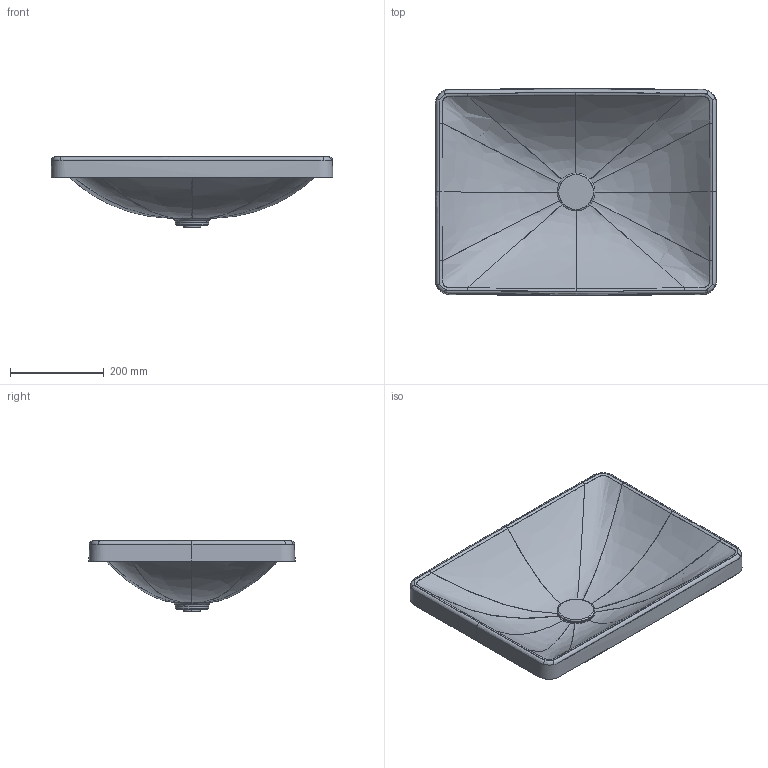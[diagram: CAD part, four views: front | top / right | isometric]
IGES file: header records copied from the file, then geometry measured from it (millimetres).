
Global section: file name: d:\users\matthias.isele\Desktop\planungsdaten_erstellen\Keramik\D-Neo\035860\035860.igs; native system: Rhinoceros ( Sep 13 2016 ); preprocessor: Trout Lake IGES 012 Sep 13 2016; date: 210621.063432; units: millimetre
Bounding box: 600.2 x 439.99 x 149.62 mm (x, y, z)
Surface area: 715356.8 mm2 (no closed solid volume)
Topology: 0 solids, 0 shells, 136 faces, 1655 edges, 1655 vertices
Faces by surface type: bspline 136
